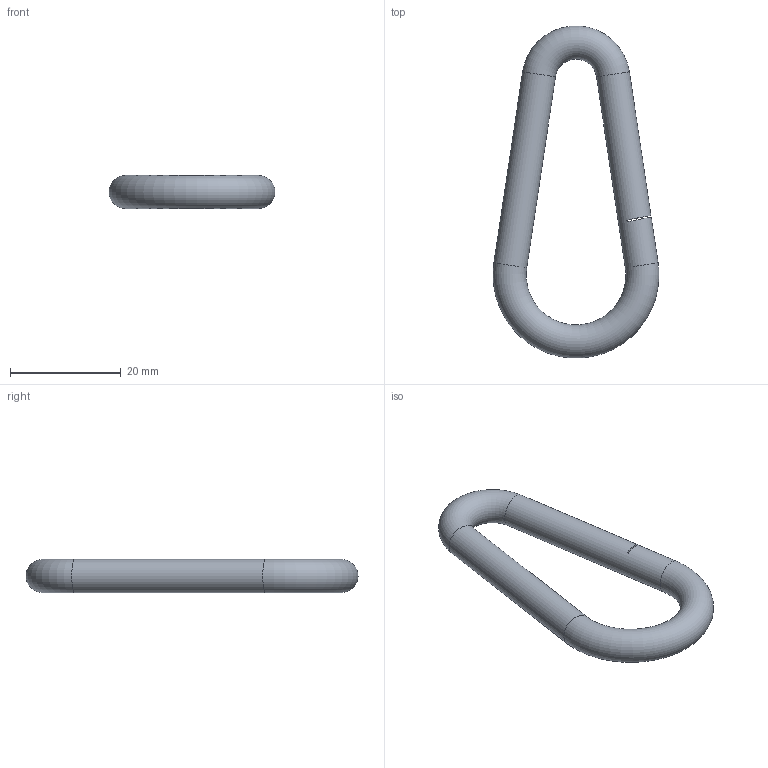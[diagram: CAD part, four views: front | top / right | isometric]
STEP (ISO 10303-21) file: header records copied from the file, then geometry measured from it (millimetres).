
FILE_DESCRIPTION((''),'2;1');
FILE_NAME('E:\catalogue and flyer\Profile catalogue 2015\Accessories ACC info\Accessories ACC step file 31Mar16\ACC-TSSH.stp','2016-04-07T15:17:44',('h029'),(''),'Autodesk Inventor 11','Autodesk Inventor 11','');
FILE_SCHEMA(('AUTOMOTIVE_DESIGN { 1 0 10303 214 1 1 1 1 }'));
Length unit declared in the file: millimetre
Products named in the file (1): ACC-TSSH
Bounding box: 30 x 60 x 6 mm (x, y, z)
Volume: 3677.1 mm3; surface area: 2498.4 mm2
Topology: 1 solids, 1 shells, 7 faces, 17 edges, 10 vertices
Faces by surface type: plane 3, cylinder 2, torus 2
Full cylindrical faces by diameter (mm): 6 x2
Entity records: 191 total; most frequent: DIRECTION 34, CARTESIAN_POINT 26, ORIENTED_EDGE 20, AXIS2_PLACEMENT_3D 16, EDGE_LOOP 12, EDGE_CURVE 10, VERTEX_POINT 8, FACE_OUTER_BOUND 7
